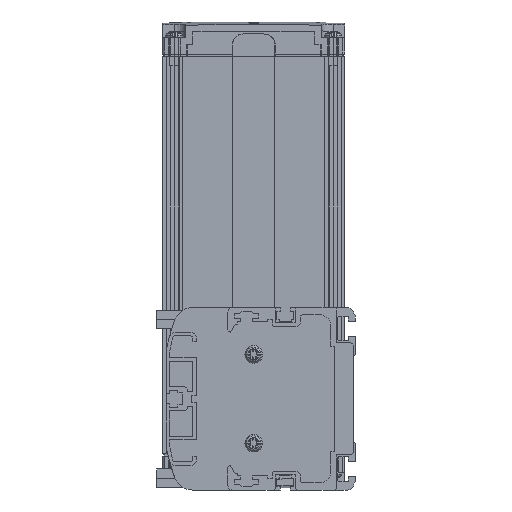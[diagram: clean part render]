
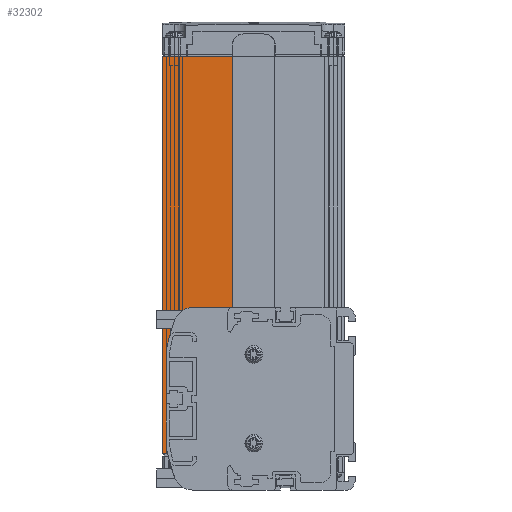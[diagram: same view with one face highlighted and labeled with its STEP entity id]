
A CAD part, left-side view. The second image highlights one B-rep face of the part: STEP entity #32302.
In plain terms, the highlighted planar face has unit normal (-1, 0, 0).
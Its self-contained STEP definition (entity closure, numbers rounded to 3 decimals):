
#5205=CARTESIAN_POINT('',(3.,79.,19.823));
#5206=DIRECTION('',(1.,0.,0.));
#5207=DIRECTION('',(0.,1.,0.));
#5208=AXIS2_PLACEMENT_3D('',#5205,#5206,#5207);
#5218=DIRECTION('',(0.,0.,1.));
#5219=VECTOR('',#5218,39.645);
#5220=CARTESIAN_POINT('',(3.,81.,-19.823));
#5221=LINE('',#5220,#5219);
#5258=CARTESIAN_POINT('',(3.,79.,-19.823));
#5259=DIRECTION('',(-1.,0.,0.));
#5260=DIRECTION('',(0.,1.,0.));
#5261=AXIS2_PLACEMENT_3D('',#5258,#5259,#5260);
#5272=CARTESIAN_POINT('',(3.,2.235,-6.));
#5273=DIRECTION('',(1.,0.,0.));
#5274=DIRECTION('',(0.,0.976,-0.219));
#5275=AXIS2_PLACEMENT_3D('',#5272,#5273,#5274);
#5607=CARTESIAN_POINT('',(3.,2.235,6.));
#5608=DIRECTION('',(1.,0.,0.));
#5609=DIRECTION('',(0.,0.984,0.177));
#5610=AXIS2_PLACEMENT_3D('',#5607,#5608,#5609);
#5620=DIRECTION('',(0.,-1.,0.));
#5621=VECTOR('',#5620,2.203);
#5622=CARTESIAN_POINT('',(3.,82.5,-23.5));
#5623=LINE('',#5622,#5621);
#5624=DIRECTION('',(0.,0.,-1.));
#5625=VECTOR('',#5624,170.);
#5626=CARTESIAN_POINT('',(3.,82.5,146.5));
#5627=LINE('',#5626,#5625);
#5628=DIRECTION('',(0.,1.,0.));
#5629=VECTOR('',#5628,29.9);
#5630=CARTESIAN_POINT('',(3.,52.6,146.5));
#5631=LINE('',#5630,#5629);
#5632=DIRECTION('',(0.,-1.,0.));
#5633=VECTOR('',#5632,17.155);
#5634=CARTESIAN_POINT('',(3.,69.755,39.));
#5635=LINE('',#5634,#5633);
#15509=DIRECTION('',(0.,0.,1.));
#15510=VECTOR('',#15509,107.5);
#15511=CARTESIAN_POINT('',(3.,52.6,39.));
#15512=LINE('',#15511,#15510);
#15545=CARTESIAN_POINT('',(3.,69.755,31.));
#15546=DIRECTION('',(-1.,0.,0.));
#15547=DIRECTION('',(0.,0.,1.));
#15548=AXIS2_PLACEMENT_3D('',#15545,#15546,#15547);
#19740=CARTESIAN_POINT('',(3.,82.5,-23.5));
#19742=VERTEX_POINT('',#19740);
#19837=CARTESIAN_POINT('',(3.,52.6,146.5));
#19838=VERTEX_POINT('',#19837);
#19839=CARTESIAN_POINT('',(3.,82.5,146.5));
#19840=VERTEX_POINT('',#19839);
#24294=CARTESIAN_POINT('',(3.,69.755,39.));
#24295=CARTESIAN_POINT('',(3.,52.6,39.));
#24296=VERTEX_POINT('',#24294);
#24297=VERTEX_POINT('',#24295);
#24298=CARTESIAN_POINT('',(3.,80.297,-23.5));
#24300=VERTEX_POINT('',#24298);
#24322=CARTESIAN_POINT('',(3.,81.,-19.823));
#24323=CARTESIAN_POINT('',(3.,80.968,-20.177));
#24324=VERTEX_POINT('',#24322);
#24325=VERTEX_POINT('',#24323);
#24338=CARTESIAN_POINT('',(3.,77.257,33.778));
#24339=VERTEX_POINT('',#24338);
#24340=CARTESIAN_POINT('',(3.,80.968,20.177));
#24341=VERTEX_POINT('',#24340);
#24342=CARTESIAN_POINT('',(3.,81.,19.823));
#24343=VERTEX_POINT('',#24342);
#32278=CARTESIAN_POINT('',(3.,67.55,61.5));
#32279=DIRECTION('',(1.,0.,0.));
#32280=DIRECTION('',(0.,-1.,0.));
#32281=AXIS2_PLACEMENT_3D('',#32278,#32279,#32280);
#32282=PLANE('',#32281);
#32284=ORIENTED_EDGE('',*,*,#32283,.F.);
#32286=ORIENTED_EDGE('',*,*,#32285,.T.);
#32287=ORIENTED_EDGE('',*,*,#32265,.F.);
#32288=ORIENTED_EDGE('',*,*,#31693,.F.);
#32289=ORIENTED_EDGE('',*,*,#31708,.F.);
#32290=ORIENTED_EDGE('',*,*,#31747,.T.);
#32291=ORIENTED_EDGE('',*,*,#31768,.F.);
#32293=ORIENTED_EDGE('',*,*,#32292,.F.);
#32295=ORIENTED_EDGE('',*,*,#32294,.F.);
#32297=ORIENTED_EDGE('',*,*,#32296,.F.);
#32299=ORIENTED_EDGE('',*,*,#32298,.F.);
#32300=EDGE_LOOP('',(#32284,#32286,#32287,#32288,#32289,#32290,#32291,#32293,
#32295,#32297,#32299));
#32301=FACE_OUTER_BOUND('',#32300,.F.);
#32302=ADVANCED_FACE('',(#32301),#32282,.F.);
#5209=CIRCLE('',#5208,2.);
#5262=CIRCLE('',#5261,2.);
#5276=CIRCLE('',#5275,80.);
#5611=CIRCLE('',#5610,80.);
#15549=CIRCLE('',#15548,8.);
#31693=EDGE_CURVE('',#24343,#24341,#5209,.T.);
#31708=EDGE_CURVE('',#24324,#24343,#5221,.T.);
#31747=EDGE_CURVE('',#24324,#24325,#5262,.T.);
#31768=EDGE_CURVE('',#24300,#24325,#5276,.T.);
#32265=EDGE_CURVE('',#24341,#24339,#5611,.T.);
#32283=EDGE_CURVE('',#24296,#24297,#5635,.T.);
#32285=EDGE_CURVE('',#24296,#24339,#15549,.T.);
#32292=EDGE_CURVE('',#19742,#24300,#5623,.T.);
#32294=EDGE_CURVE('',#19840,#19742,#5627,.T.);
#32296=EDGE_CURVE('',#19838,#19840,#5631,.T.);
#32298=EDGE_CURVE('',#24297,#19838,#15512,.T.);
